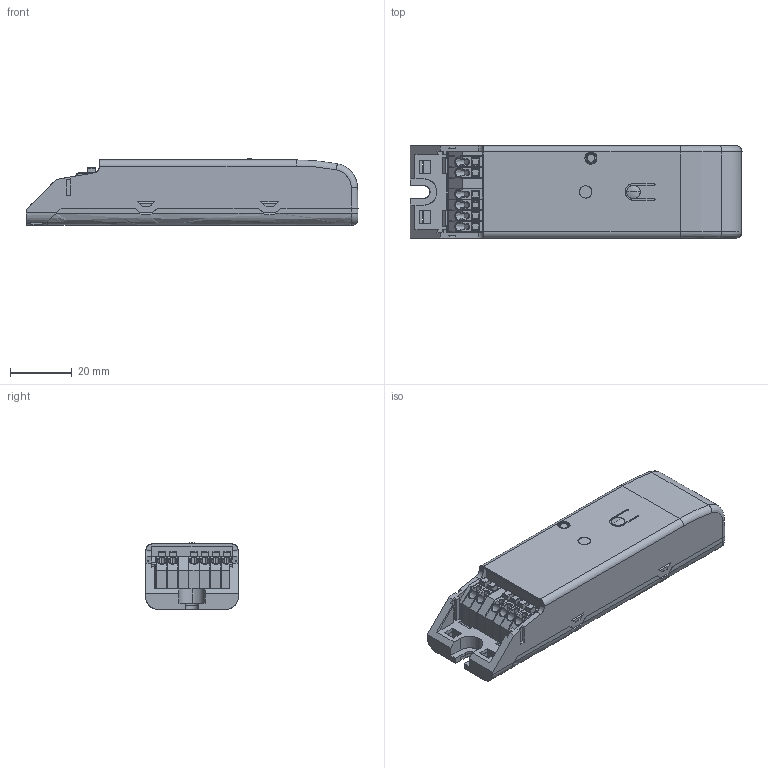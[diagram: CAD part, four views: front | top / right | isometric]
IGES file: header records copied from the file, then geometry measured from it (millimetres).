
Start section: SolidWorks IGES file using analytic representation for surfaces
Global section: file name: C:\Users\Public\HAOSENSOFTWARE\YFTSolidWorksArasPLM-V3.1.1-2023-beta\SaveAs_files\9C1-4548587-000-00.IGS; native system: SolidWorks 2023; preprocessor: SolidWorks 2023; author: P.SACHSENWEGER; date: 250717.160628; units: millimetre
Bounding box: 107.7 x 30.01 x 21.6 mm (x, y, z)
Surface area: 21212.8 mm2 (no closed solid volume)
Topology: 0 solids, 0 shells, 829 faces, 6593 edges, 6590 vertices
Faces by surface type: bspline 589, revolution 240
